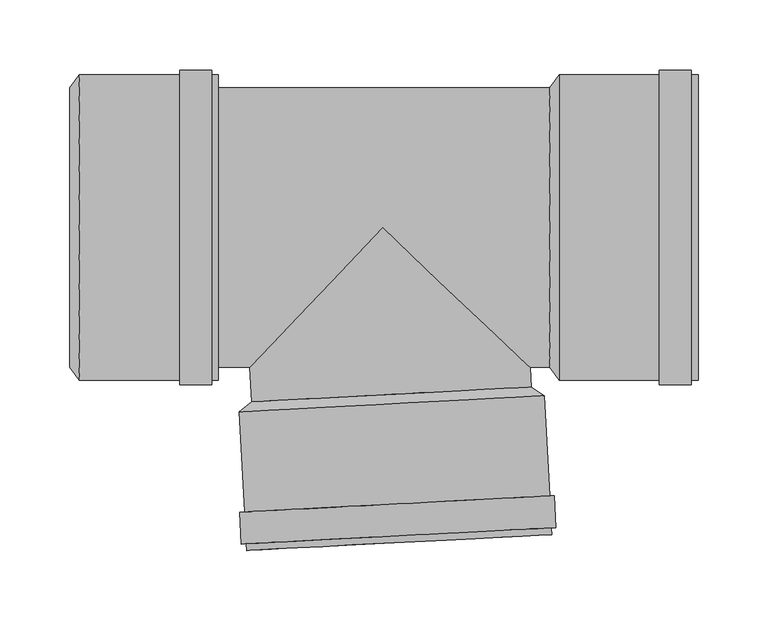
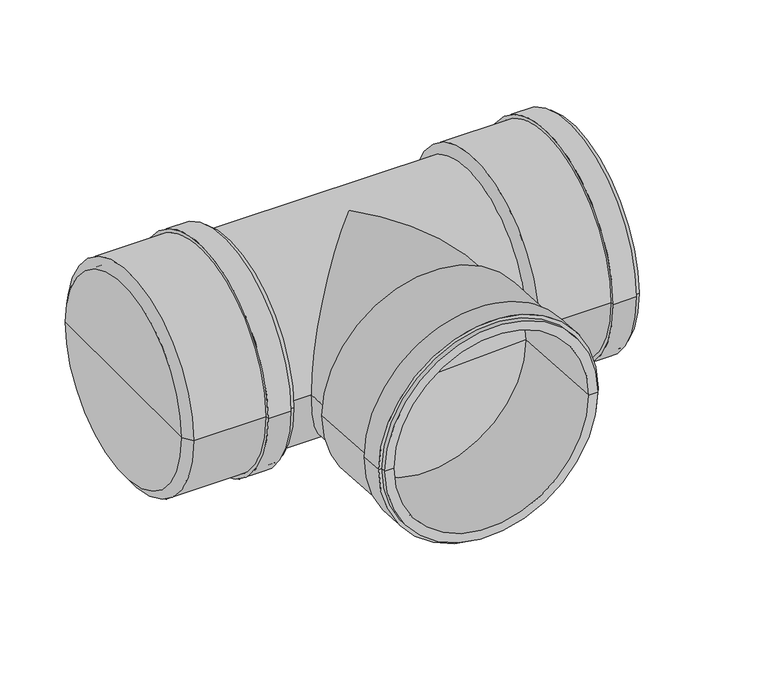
"""IFC4 building model written with IfcOpenShell, lengths in millimetres: pipe fitting geometry, pf_KGEA : pf_KGEA."""

from ifc_helpers import new_model, si_unit, frame, origin, place, context, project, spatial, polyline, circle_curve, ellipse_curve, source, transform, mapped, element, save
from ifc_brep_helpers import plane_surface, cylinder_surface, revolved_surface, advanced_brep


def pipe_fitting_25325497(model_context):
    return source(origin(), model_context, "Body", "AdvancedBrep", [
        advanced_brep(
        [(-93.6140403, -124.4699621, 0.0), (106.1118667, -114.0027708, 0.0), (115.5500463, -120.2173315, 0.0), (-102.3509182, -131.6370372, 0.0), (6.2489132, -119.2363664, 0.0), (-97.1539577, -230.80095, 0.0), (120.7470068, -219.3812443, 0.0), (111.659478, -219.8575015, 0.0), (-88.0664289, -230.3246928, 0.0), (-97.4051703, -226.0075282, 0.0), (120.4957942, -214.5878225, 0.0), (-100.8005107, -226.1854704, 0.0), (123.8911346, -214.4098803, 0.0), (-101.9937705, -203.4167171, 0.0), (122.6978748, -191.6411269, 0.0), (-98.5984301, -203.2387748, 0.0), (119.3025344, -191.8190691, 0.0), (-93.2633894, -131.16078, 0.0), (106.4625176, -120.6935887, 0.0), (6.5995641, -125.9271843, 0.0)],
        [
            (0, 1, circle_curve(frame((6.2489132, -119.2363664, 0.0), z_axis=(0.05233595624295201, -0.9986295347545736, 0.0), x_axis=(0.9986295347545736, 0.05233595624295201, 0.0)), 100.0)),
            (1, 2),
            (2, 3, circle_curve(frame((6.5995641, -125.9271843, 0.0), z_axis=(-0.05233595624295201, 0.9986295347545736, 0.0), x_axis=(0.9986295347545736, 0.05233595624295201, 0.0)), 109.1)),
            (3, 0),
            (1, 0, circle_curve(frame((6.2489132, -119.2363664, 0.0), z_axis=(0.05233595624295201, -0.9986295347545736, 0.0), x_axis=(0.9986295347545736, 0.05233595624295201, 0.0)), 100.0)),
            (3, 2, circle_curve(frame((6.5995641, -125.9271843, 0.0), z_axis=(-0.05233595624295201, 0.9986295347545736, 0.0), x_axis=(0.9986295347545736, 0.05233595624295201, 0.0)), 109.1)),
            (4, 1),
            (0, 4),
            (5, 6, circle_curve(frame((11.7965245, -225.0910971, 0.0), z_axis=(0.05233595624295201, -0.9986295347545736, 0.0), x_axis=(0.9986295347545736, 0.05233595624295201, 0.0)), 109.1)),
            (6, 7),
            (7, 8, circle_curve(frame((11.7965245, -225.0910971, 0.0), z_axis=(-0.05233595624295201, 0.9986295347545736, 0.0), x_axis=(0.9986295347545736, 0.05233595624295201, 0.0)), 100.0)),
            (8, 5),
            (6, 5, circle_curve(frame((11.7965245, -225.0910971, 0.0), z_axis=(0.05233595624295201, -0.9986295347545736, 0.0), x_axis=(0.9986295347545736, 0.05233595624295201, 0.0)), 109.1)),
            (8, 7, circle_curve(frame((11.7965245, -225.0910971, 0.0), z_axis=(-0.05233595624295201, 0.9986295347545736, 0.0), x_axis=(0.9986295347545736, 0.05233595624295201, 0.0)), 100.0)),
            (9, 10, circle_curve(frame((11.5453119, -220.2976754, 0.0), z_axis=(0.05233595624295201, -0.9986295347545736, 0.0), x_axis=(0.9986295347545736, 0.05233595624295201, 0.0)), 109.1)),
            (10, 6),
            (5, 9),
            (10, 9, circle_curve(frame((11.5453119, -220.2976754, 0.0), z_axis=(0.05233595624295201, -0.9986295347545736, 0.0), x_axis=(0.9986295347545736, 0.05233595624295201, 0.0)), 109.1)),
            (11, 12, circle_curve(frame((11.5453119, -220.2976754, 0.0), z_axis=(0.05233595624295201, -0.9986295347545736, 0.0), x_axis=(0.9986295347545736, 0.05233595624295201, 0.0)), 112.5)),
            (12, 10),
            (9, 11),
            (12, 11, circle_curve(frame((11.5453119, -220.2976754, 0.0), z_axis=(0.05233595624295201, -0.9986295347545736, 0.0), x_axis=(0.9986295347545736, 0.05233595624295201, 0.0)), 112.5)),
            (13, 14, circle_curve(frame((10.3520521, -197.528922, 0.0), z_axis=(0.05233595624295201, -0.9986295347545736, 0.0), x_axis=(0.9986295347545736, 0.05233595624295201, 0.0)), 112.5)),
            (14, 12),
            (11, 13),
            (14, 13, circle_curve(frame((10.3520521, -197.528922, 0.0), z_axis=(0.05233595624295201, -0.9986295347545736, 0.0), x_axis=(0.9986295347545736, 0.05233595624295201, 0.0)), 112.5)),
            (15, 16, circle_curve(frame((10.3520521, -197.528922, 0.0), z_axis=(0.05233595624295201, -0.9986295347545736, 0.0), x_axis=(0.9986295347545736, 0.05233595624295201, 0.0)), 109.1)),
            (16, 14),
            (13, 15),
            (16, 15, circle_curve(frame((10.3520521, -197.528922, 0.0), z_axis=(0.05233595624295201, -0.9986295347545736, 0.0), x_axis=(0.9986295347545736, 0.05233595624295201, 0.0)), 109.1)),
            (2, 16),
            (15, 3),
            (17, 18, circle_curve(frame((6.5995641, -125.9271843, 0.0), z_axis=(0.05233595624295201, -0.9986295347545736, 0.0), x_axis=(0.9986295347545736, 0.05233595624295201, 0.0)), 100.0)),
            (18, 19),
            (19, 17),
            (18, 17, circle_curve(frame((6.5995641, -125.9271843, 0.0), z_axis=(0.05233595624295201, -0.9986295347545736, 0.0), x_axis=(0.9986295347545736, 0.05233595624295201, 0.0)), 100.0)),
            (7, 18),
            (17, 8),
        ],
        [
            revolved_surface(polyline([(115.5500463, -120.2173315, 0.0), (106.1118667, -114.0027708, 0.0)]), (6.2489132, -119.2363664, 0.0), (-0.05233595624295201, 0.9986295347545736, 0.0)),
            plane_surface(frame((6.2489132, -119.2363664, 0.0), z_axis=(-0.05233595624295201, 0.9986295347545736, 0.0), x_axis=(0.9986295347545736, 0.05233595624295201, 0.0))),
            plane_surface(frame((11.7965245, -225.0910971, 0.0), z_axis=(0.05233595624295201, -0.9986295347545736, 0.0), x_axis=(0.9986295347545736, 0.05233595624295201, 0.0))),
            cylinder_surface(frame((6.2489132, -119.2363664, 0.0), z_axis=(-0.05233595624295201, 0.9986295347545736, 0.0), x_axis=(0.9986295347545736, 0.05233595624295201, 0.0)), 109.1),
            plane_surface(frame((11.5453119, -220.2976754, 0.0), z_axis=(0.05233595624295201, -0.9986295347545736, 0.0), x_axis=(0.9986295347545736, 0.05233595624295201, 0.0))),
            cylinder_surface(frame((6.2489132, -119.2363664, 0.0), z_axis=(-0.05233595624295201, 0.9986295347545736, 0.0), x_axis=(0.9986295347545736, 0.05233595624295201, 0.0)), 112.5),
            plane_surface(frame((10.3520521, -197.528922, 0.0), z_axis=(-0.05233595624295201, 0.9986295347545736, 0.0), x_axis=(0.9986295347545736, 0.05233595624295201, 0.0))),
            plane_surface(frame((6.5995641, -125.9271843, 0.0), z_axis=(0.05233595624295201, -0.9986295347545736, 0.0), x_axis=(0.9986295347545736, 0.05233595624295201, 0.0))),
            revolved_surface(polyline([(106.46251758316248, -120.69358867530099, 0.0), (111.65947804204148, -219.85750155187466, 0.0)]), (6.2489132, -119.2363664, 0.0), (-0.05233595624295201, 0.9986295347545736, 0.0)),
        ],
        [
            (0, [[1, 2, 3, 4]]),
            (0, [[5, -4, 6, -2]]),
            (1, [[7, -1, 8]]),
            (1, [[-8, -5, -7]]),
            (2, [[9, 10, 11, 12]]),
            (2, [[13, -12, 14, -10]]),
            (3, [[15, 16, -9, 17]]),
            (3, [[18, -17, -13, -16]]),
            (4, [[19, 20, -15, 21]]),
            (4, [[22, -21, -18, -20]]),
            (5, [[23, 24, -19, 25]]),
            (5, [[26, -25, -22, -24]]),
            (6, [[27, 28, -23, 29]]),
            (6, [[30, -29, -26, -28]]),
            (3, [[-3, 31, -27, 32]]),
            (3, [[-6, -32, -30, -31]]),
            (7, [[33, 34, 35]]),
            (7, [[36, -35, -34]]),
            (8, [[-11, 37, -33, 38]]),
            (8, [[-14, -38, -36, -37]]),
        ],
    ),
        advanced_brep(
        [(119.4, -100.0, 0.0), (119.4, 100.0, 0.0), (126.1, 109.1, 0.0), (126.1, -109.1, 0.0), (119.4, 0.0, 0.0), (225.4, -109.1, 0.0), (225.4, 109.1, 0.0), (225.4, 100.0, 0.0), (225.4, -100.0, 0.0), (220.6, -109.1, 0.0), (220.6, 109.1, 0.0), (220.6, -112.5, 0.0), (220.6, 112.5, 0.0), (197.8, -112.5, 0.0), (197.8, 112.5, 0.0), (197.8, -109.1, 0.0), (197.8, 109.1, 0.0), (126.1, -100.0, 0.0), (126.1, 100.0, 0.0), (126.1, 0.0, 0.0)],
        [
            (0, 1, circle_curve(frame((119.4, 0.0, 0.0), z_axis=(1.0, 0.0, 0.0), x_axis=(0.0, 1.0, 0.0)), 100.0)),
            (1, 2),
            (2, 3, circle_curve(frame((126.1, 0.0, 0.0), z_axis=(-1.0, 0.0, 0.0), x_axis=(0.0, 1.0, 0.0)), 109.1)),
            (3, 0),
            (1, 0, circle_curve(frame((119.4, 0.0, 0.0), z_axis=(1.0, 0.0, 0.0), x_axis=(0.0, 1.0, 0.0)), 100.0)),
            (3, 2, circle_curve(frame((126.1, 0.0, 0.0), z_axis=(-1.0, 0.0, 0.0), x_axis=(0.0, 1.0, 0.0)), 109.1)),
            (4, 1),
            (0, 4),
            (5, 6, circle_curve(frame((225.4, 0.0, 0.0), z_axis=(1.0, 0.0, 0.0), x_axis=(0.0, 1.0, 0.0)), 109.1)),
            (6, 7),
            (7, 8, circle_curve(frame((225.4, 0.0, 0.0), z_axis=(-1.0, 0.0, 0.0), x_axis=(0.0, 1.0, 0.0)), 100.0)),
            (8, 5),
            (6, 5, circle_curve(frame((225.4, 0.0, 0.0), z_axis=(1.0, 0.0, 0.0), x_axis=(0.0, 1.0, 0.0)), 109.1)),
            (8, 7, circle_curve(frame((225.4, 0.0, 0.0), z_axis=(-1.0, 0.0, 0.0), x_axis=(0.0, 1.0, 0.0)), 100.0)),
            (9, 10, circle_curve(frame((220.6, 0.0, 0.0), z_axis=(1.0, 0.0, 0.0), x_axis=(0.0, 1.0, 0.0)), 109.1)),
            (10, 6),
            (5, 9),
            (10, 9, circle_curve(frame((220.6, 0.0, 0.0), z_axis=(1.0, 0.0, 0.0), x_axis=(0.0, 1.0, 0.0)), 109.1)),
            (11, 12, circle_curve(frame((220.6, 0.0, 0.0), z_axis=(1.0, 0.0, 0.0), x_axis=(0.0, 1.0, 0.0)), 112.5)),
            (12, 10),
            (9, 11),
            (12, 11, circle_curve(frame((220.6, 0.0, 0.0), z_axis=(1.0, 0.0, 0.0), x_axis=(0.0, 1.0, 0.0)), 112.5)),
            (13, 14, circle_curve(frame((197.8, 0.0, 0.0), z_axis=(1.0, 0.0, 0.0), x_axis=(0.0, 1.0, 0.0)), 112.5)),
            (14, 12),
            (11, 13),
            (14, 13, circle_curve(frame((197.8, 0.0, 0.0), z_axis=(1.0, 0.0, 0.0), x_axis=(0.0, 1.0, 0.0)), 112.5)),
            (15, 16, circle_curve(frame((197.8, 0.0, 0.0), z_axis=(1.0, 0.0, 0.0), x_axis=(0.0, 1.0, 0.0)), 109.1)),
            (16, 14),
            (13, 15),
            (16, 15, circle_curve(frame((197.8, 0.0, 0.0), z_axis=(1.0, 0.0, 0.0), x_axis=(0.0, 1.0, 0.0)), 109.1)),
            (2, 16),
            (15, 3),
            (17, 18, circle_curve(frame((126.1, 0.0, 0.0), z_axis=(1.0, 0.0, 0.0), x_axis=(0.0, 1.0, 0.0)), 100.0)),
            (18, 19),
            (19, 17),
            (18, 17, circle_curve(frame((126.1, 0.0, 0.0), z_axis=(1.0, 0.0, 0.0), x_axis=(0.0, 1.0, 0.0)), 100.0)),
            (7, 18),
            (17, 8),
        ],
        [
            revolved_surface(polyline([(126.1, 109.1, 0.0), (119.4, 100.0, 0.0)]), (119.4, 0.0, 0.0), (-1.0, 0.0, 0.0)),
            plane_surface(frame((119.4, 0.0, 0.0), z_axis=(-1.0, 0.0, 0.0), x_axis=(0.0, 1.0, 0.0))),
            plane_surface(frame((225.4, 0.0, 0.0), z_axis=(1.0, 0.0, 0.0), x_axis=(0.0, 1.0, 0.0))),
            cylinder_surface(frame((119.4, 0.0, 0.0), z_axis=(-1.0, 0.0, 0.0), x_axis=(0.0, 1.0, 0.0)), 109.1),
            plane_surface(frame((220.6, 0.0, 0.0), z_axis=(1.0, 0.0, 0.0), x_axis=(0.0, 1.0, 0.0))),
            cylinder_surface(frame((119.4, 0.0, 0.0), z_axis=(-1.0, 0.0, 0.0), x_axis=(0.0, 1.0, 0.0)), 112.5),
            plane_surface(frame((197.8, 0.0, 0.0), z_axis=(-1.0, 0.0, 0.0), x_axis=(0.0, 1.0, 0.0))),
            plane_surface(frame((126.1, 0.0, 0.0), z_axis=(1.0, 0.0, 0.0), x_axis=(0.0, 1.0, 0.0))),
            revolved_surface(polyline([(126.1, 100.0, 0.0), (225.4, 100.0, 0.0)]), (119.4, 0.0, 0.0), (-1.0, 0.0, 0.0)),
        ],
        [
            (0, [[1, 2, 3, 4]]),
            (0, [[5, -4, 6, -2]]),
            (1, [[7, -1, 8]]),
            (1, [[-8, -5, -7]]),
            (2, [[9, 10, 11, 12]]),
            (2, [[13, -12, 14, -10]]),
            (3, [[15, 16, -9, 17]]),
            (3, [[18, -17, -13, -16]]),
            (4, [[19, 20, -15, 21]]),
            (4, [[22, -21, -18, -20]]),
            (5, [[23, 24, -19, 25]]),
            (5, [[26, -25, -22, -24]]),
            (6, [[27, 28, -23, 29]]),
            (6, [[30, -29, -26, -28]]),
            (3, [[-3, 31, -27, 32]]),
            (3, [[-6, -32, -30, -31]]),
            (7, [[33, 34, 35]]),
            (7, [[36, -35, -34]]),
            (8, [[-11, 37, -33, 38]]),
            (8, [[-14, -38, -36, -37]]),
        ],
    ),
        advanced_brep(
        [(-223.3, -100.0, 0.0), (-223.3, 100.0, 0.0), (-216.6, 109.1, 0.0), (-216.6, -109.1, 0.0), (-223.3, 0.0, 0.0), (-117.3, -109.1, 0.0), (-117.3, 109.1, 0.0), (-117.3, 100.0, 0.0), (-117.3, -100.0, 0.0), (-122.1, -109.1, 0.0), (-122.1, 109.1, 0.0), (-122.1, -112.5, 0.0), (-122.1, 112.5, 0.0), (-144.9, -112.5, 0.0), (-144.9, 112.5, 0.0), (-144.9, -109.1, 0.0), (-144.9, 109.1, 0.0), (-216.6, -100.0, 0.0), (-216.6, 100.0, 0.0), (-216.6, 0.0, 0.0)],
        [
            (0, 1, circle_curve(frame((-223.3, 0.0, 0.0), z_axis=(1.0, 0.0, 0.0), x_axis=(0.0, 1.0, 0.0)), 100.0)),
            (1, 2),
            (2, 3, circle_curve(frame((-216.6, 0.0, 0.0), z_axis=(-1.0, 0.0, 0.0), x_axis=(0.0, 1.0, 0.0)), 109.1)),
            (3, 0),
            (1, 0, circle_curve(frame((-223.3, 0.0, 0.0), z_axis=(1.0, 0.0, 0.0), x_axis=(0.0, 1.0, 0.0)), 100.0)),
            (3, 2, circle_curve(frame((-216.6, 0.0, 0.0), z_axis=(-1.0, 0.0, 0.0), x_axis=(0.0, 1.0, 0.0)), 109.1)),
            (4, 1),
            (0, 4),
            (5, 6, circle_curve(frame((-117.3, 0.0, 0.0), z_axis=(1.0, 0.0, 0.0), x_axis=(0.0, 1.0, 0.0)), 109.1)),
            (6, 7),
            (7, 8, circle_curve(frame((-117.3, 0.0, 0.0), z_axis=(-1.0, 0.0, 0.0), x_axis=(0.0, 1.0, 0.0)), 100.0)),
            (8, 5),
            (6, 5, circle_curve(frame((-117.3, 0.0, 0.0), z_axis=(1.0, 0.0, 0.0), x_axis=(0.0, 1.0, 0.0)), 109.1)),
            (8, 7, circle_curve(frame((-117.3, 0.0, 0.0), z_axis=(-1.0, 0.0, 0.0), x_axis=(0.0, 1.0, 0.0)), 100.0)),
            (9, 10, circle_curve(frame((-122.1, 0.0, 0.0), z_axis=(1.0, 0.0, 0.0), x_axis=(0.0, 1.0, 0.0)), 109.1)),
            (10, 6),
            (5, 9),
            (10, 9, circle_curve(frame((-122.1, 0.0, 0.0), z_axis=(1.0, 0.0, 0.0), x_axis=(0.0, 1.0, 0.0)), 109.1)),
            (11, 12, circle_curve(frame((-122.1, 0.0, 0.0), z_axis=(1.0, 0.0, 0.0), x_axis=(0.0, 1.0, 0.0)), 112.5)),
            (12, 10),
            (9, 11),
            (12, 11, circle_curve(frame((-122.1, 0.0, 0.0), z_axis=(1.0, 0.0, 0.0), x_axis=(0.0, 1.0, 0.0)), 112.5)),
            (13, 14, circle_curve(frame((-144.9, 0.0, 0.0), z_axis=(1.0, 0.0, 0.0), x_axis=(0.0, 1.0, 0.0)), 112.5)),
            (14, 12),
            (11, 13),
            (14, 13, circle_curve(frame((-144.9, 0.0, 0.0), z_axis=(1.0, 0.0, 0.0), x_axis=(0.0, 1.0, 0.0)), 112.5)),
            (15, 16, circle_curve(frame((-144.9, 0.0, 0.0), z_axis=(1.0, 0.0, 0.0), x_axis=(0.0, 1.0, 0.0)), 109.1)),
            (16, 14),
            (13, 15),
            (16, 15, circle_curve(frame((-144.9, 0.0, 0.0), z_axis=(1.0, 0.0, 0.0), x_axis=(0.0, 1.0, 0.0)), 109.1)),
            (2, 16),
            (15, 3),
            (17, 18, circle_curve(frame((-216.6, 0.0, 0.0), z_axis=(1.0, 0.0, 0.0), x_axis=(0.0, 1.0, 0.0)), 100.0)),
            (18, 19),
            (19, 17),
            (18, 17, circle_curve(frame((-216.6, 0.0, 0.0), z_axis=(1.0, 0.0, 0.0), x_axis=(0.0, 1.0, 0.0)), 100.0)),
            (7, 18),
            (17, 8),
        ],
        [
            revolved_surface(polyline([(-216.6, 109.1, 0.0), (-223.3, 100.0, 0.0)]), (-223.3, 0.0, 0.0), (-1.0, 0.0, 0.0)),
            plane_surface(frame((-223.3, 0.0, 0.0), z_axis=(-1.0, 0.0, 0.0), x_axis=(0.0, 1.0, 0.0))),
            plane_surface(frame((-117.3, 0.0, 0.0), z_axis=(1.0, 0.0, 0.0), x_axis=(0.0, 1.0, 0.0))),
            cylinder_surface(frame((-223.3, 0.0, 0.0), z_axis=(-1.0, 0.0, 0.0), x_axis=(0.0, 1.0, 0.0)), 109.1),
            plane_surface(frame((-122.1, 0.0, 0.0), z_axis=(1.0, 0.0, 0.0), x_axis=(0.0, 1.0, 0.0))),
            cylinder_surface(frame((-223.3, 0.0, 0.0), z_axis=(-1.0, 0.0, 0.0), x_axis=(0.0, 1.0, 0.0)), 112.5),
            plane_surface(frame((-144.9, 0.0, 0.0), z_axis=(-1.0, 0.0, 0.0), x_axis=(0.0, 1.0, 0.0))),
            plane_surface(frame((-216.6, 0.0, 0.0), z_axis=(1.0, 0.0, 0.0), x_axis=(0.0, 1.0, 0.0))),
            revolved_surface(polyline([(-216.6, 100.0, 0.0), (-117.3, 100.0, 0.0)]), (-223.3, 0.0, 0.0), (-1.0, 0.0, 0.0)),
        ],
        [
            (0, [[1, 2, 3, 4]]),
            (0, [[5, -4, 6, -2]]),
            (1, [[7, -1, 8]]),
            (1, [[-8, -5, -7]]),
            (2, [[9, 10, 11, 12]]),
            (2, [[13, -12, 14, -10]]),
            (3, [[15, 16, -9, 17]]),
            (3, [[18, -17, -13, -16]]),
            (4, [[19, 20, -15, 21]]),
            (4, [[22, -21, -18, -20]]),
            (5, [[23, 24, -19, 25]]),
            (5, [[26, -25, -22, -24]]),
            (6, [[27, 28, -23, 29]]),
            (6, [[30, -29, -26, -28]]),
            (3, [[-3, 31, -27, 32]]),
            (3, [[-6, -32, -30, -31]]),
            (7, [[33, 34, 35]]),
            (7, [[36, -35, -34]]),
            (8, [[-11, 37, -33, 38]]),
            (8, [[-14, -38, -36, -37]]),
        ],
    ),
        advanced_brep(
        [(-216.6, -100.0, 0.0), (-216.6, 100.0, 0.0), (119.4, -100.0, 0.0), (119.4, 100.0, 0.0), (-94.8964567, -100.0, 0.0), (0.0, 0.0, 100.0), (105.3780125, -100.0, 0.0), (0.0, 0.0, -100.0), (-93.6140403, -124.4699621, 0.0), (106.1118667, -114.0027708, 0.0)],
        [
            (0, 1, circle_curve(frame((-216.6, 0.0, 0.0), z_axis=(-1.0, 0.0, 0.0), x_axis=(0.0, 1.0, 0.0)), 100.0)),
            (1, 0, circle_curve(frame((-216.6, 0.0, 0.0), z_axis=(-1.0, 0.0, 0.0), x_axis=(0.0, 1.0, 0.0)), 100.0)),
            (2, 3, circle_curve(frame((119.4, 0.0, 0.0), z_axis=(1.0, 0.0, 0.0), x_axis=(0.0, 1.0, 0.0)), 100.0)),
            (3, 2, circle_curve(frame((119.4, 0.0, 0.0), z_axis=(1.0, 0.0, 0.0), x_axis=(0.0, 1.0, 0.0)), 100.0)),
            (0, 4),
            (4, 5, ellipse_curve(frame((0.0, 0.0, 0.0), z_axis=(-0.725374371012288, 0.6883545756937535, 0.0), x_axis=(-0.6883545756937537, -0.7253743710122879, 0.0)), 137.8598473, 100.0)),
            (5, 6, ellipse_curve(frame((0.0, 0.0, 0.0), z_axis=(0.6883545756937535, 0.7253743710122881, 0.0), x_axis=(-0.7253743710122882, 0.6883545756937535, 0.0)), 145.2739671, 100.0)),
            (6, 2),
            (3, 1),
            (6, 7, ellipse_curve(frame((0.0, 0.0, 0.0), z_axis=(0.6883545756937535, 0.7253743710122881, 0.0), x_axis=(-0.7253743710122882, 0.6883545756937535, 0.0)), 145.2739671, 100.0)),
            (7, 4, ellipse_curve(frame((0.0, 0.0, 0.0), z_axis=(-0.725374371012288, 0.6883545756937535, 0.0), x_axis=(-0.6883545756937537, -0.7253743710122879, 0.0)), 137.8598473, 100.0)),
            (8, 9, circle_curve(frame((6.2489132, -119.2363664, 0.0), z_axis=(0.05233595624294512, -0.9986295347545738, 0.0), x_axis=(0.9986295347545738, 0.05233595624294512, 0.0)), 100.0)),
            (9, 8, circle_curve(frame((6.2489132, -119.2363664, 0.0), z_axis=(0.05233595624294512, -0.9986295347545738, 0.0), x_axis=(0.9986295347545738, 0.05233595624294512, 0.0)), 100.0)),
            (9, 6),
            (4, 8),
        ],
        [
            plane_surface(frame((-216.6, 0.0, 0.0), z_axis=(-1.0, 0.0, 0.0), x_axis=(0.0, 0.0, 1.0))),
            plane_surface(frame((119.4, 0.0, 0.0), z_axis=(1.0, 0.0, 0.0), x_axis=(0.0, 0.0, 1.0))),
            cylinder_surface(frame((-216.6, 0.0, 0.0), z_axis=(-1.0, 0.0, 0.0), x_axis=(0.0, 1.0, 0.0)), 100.0),
            plane_surface(frame((6.2489132, -119.2363664, 0.0), z_axis=(0.05233595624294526, -0.9986295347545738, 0.0), x_axis=(0.0, 0.0, 1.0))),
            cylinder_surface(frame((0.0, 0.0, 0.0), z_axis=(-0.05233595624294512, 0.9986295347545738, 0.0), x_axis=(0.9986295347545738, 0.05233595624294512, 0.0)), 100.0),
        ],
        [
            (0, [[1, 2]]),
            (1, [[3, 4]]),
            (2, [[-1, 5, 6, 7, 8, -4, 9]]),
            (2, [[-2, -9, -3, -8, 10, 11, -5]]),
            (3, [[12, 13]]),
            (4, [[-13, 14, -7, -6, 15]]),
            (4, [[-12, -15, -11, -10, -14]]),
        ],
    ),
    ])


if __name__ == "__main__":
    model = new_model("IFC4")
    model_context = context("Model", 3, world=origin())
    ifc_project = project(units=[si_unit("LENGTHUNIT", "METRE", prefix="MILLI")], contexts=[model_context])
    site = spatial("IfcSite", under=ifc_project)
    building = spatial("IfcBuilding", under=site)
    placement = place(None, origin())
    pipe_fitting_shape = pipe_fitting_25325497(model_context)
    element("IfcPipeFitting", 1, ObjectType="pf_KGEA : pf_KGEA", at=placement, inside=building, context=model_context, shape_type="MappedRepresentation", body=[
        mapped(pipe_fitting_shape, transform((0.0, 0.0, 0.0), x_axis=(1.0, 0.0, 0.0), y_axis=(0.0, 1.0, 0.0), z_axis=(0.0, 0.0, 1.0))),
    ])
    save(model, "model.ifc")
